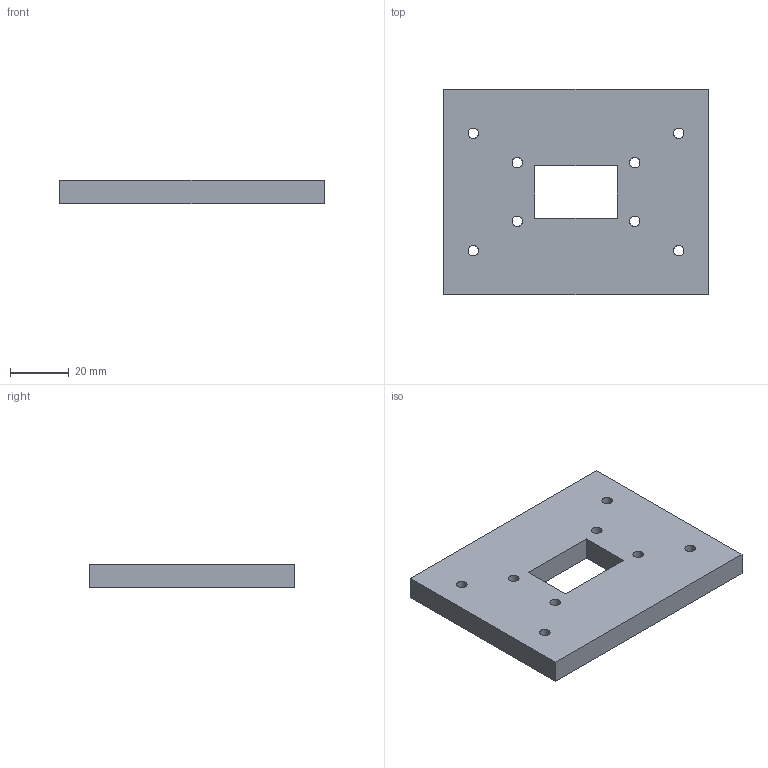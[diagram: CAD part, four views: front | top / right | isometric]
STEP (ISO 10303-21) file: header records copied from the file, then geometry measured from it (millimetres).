
FILE_DESCRIPTION(('Open CASCADE Model'),'2;1');
FILE_NAME('Open CASCADE Shape Model','2026-10-06T17:17:59',('Author'),( 'Open CASCADE'),'Open CASCADE STEP processor 7.8','Open CASCADE 7.8' ,'Unknown');
FILE_SCHEMA(('AUTOMOTIVE_DESIGN { 1 0 10303 214 1 1 1 1 }'));
Length unit declared in the file: millimetre
Products named in the file (1): Open CASCADE STEP translator 7.8 6
Bounding box: 90 x 70 x 8 mm (x, y, z)
Volume: 45716.6 mm3; surface area: 15449 mm2
Topology: 1 solids, 1 shells, 18 faces, 48 edges, 32 vertices
Faces by surface type: plane 10, cylinder 8
Full cylindrical faces by diameter (mm): 3.6 x8
Entity records: 1222 total; most frequent: CARTESIAN_POINT 211, DIRECTION 182, ORIENTED_EDGE 96, LINE 96, VECTOR 96, PCURVE 96, DEFINITIONAL_REPRESENTATION 96, EDGE_CURVE 48
